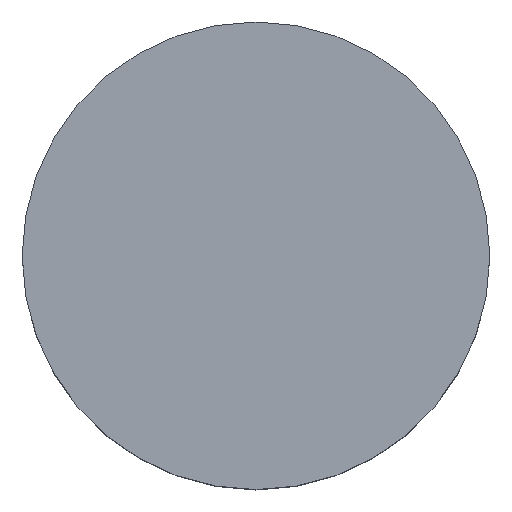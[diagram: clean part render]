
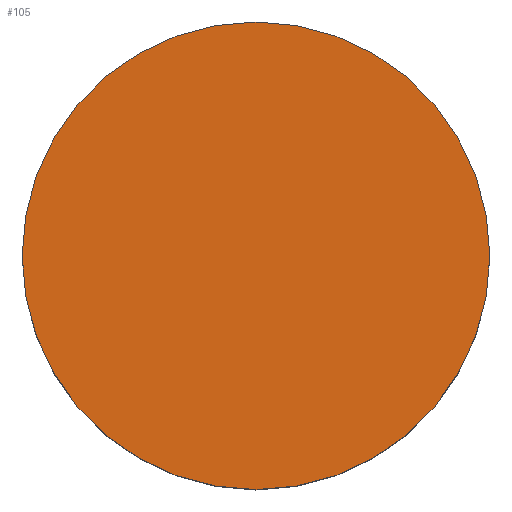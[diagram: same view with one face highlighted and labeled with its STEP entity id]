
A CAD part, top view. The second image highlights one B-rep face of the part: STEP entity #105.
In plain terms, the highlighted planar face has unit normal (0, 0, 1).
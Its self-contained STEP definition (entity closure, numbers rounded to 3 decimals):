
#21 = EDGE_CURVE('',#22,#22,#24,.T.);
#22 = VERTEX_POINT('',#23);
#23 = CARTESIAN_POINT('',(96.35,65.,155.));
#24 = SURFACE_CURVE('',#25,(#30,#42),.PCURVE_S1.);
#25 = CIRCLE('',#26,6.35);
#26 = AXIS2_PLACEMENT_3D('',#27,#28,#29);
#27 = CARTESIAN_POINT('',(90.,65.,155.));
#28 = DIRECTION('',(0.,0.,1.));
#29 = DIRECTION('',(1.,0.,-0.));
#30 = PCURVE('',#31,#36);
#31 = CYLINDRICAL_SURFACE('',#32,6.35);
#32 = AXIS2_PLACEMENT_3D('',#33,#34,#35);
#33 = CARTESIAN_POINT('',(90.,65.,149.));
#34 = DIRECTION('',(0.,0.,1.));
#35 = DIRECTION('',(1.,0.,-0.));
#36 = DEFINITIONAL_REPRESENTATION('',(#37),#41);
#37 = LINE('',#38,#39);
#38 = CARTESIAN_POINT('',(0.,6.));
#39 = VECTOR('',#40,1.);
#40 = DIRECTION('',(1.,0.));
#41 = ( GEOMETRIC_REPRESENTATION_CONTEXT(2) 
PARAMETRIC_REPRESENTATION_CONTEXT() REPRESENTATION_CONTEXT('2D SPACE',''
  ) );
#42 = PCURVE('',#43,#48);
#43 = PLANE('',#44);
#44 = AXIS2_PLACEMENT_3D('',#45,#46,#47);
#45 = CARTESIAN_POINT('',(90.,65.,155.));
#46 = DIRECTION('',(0.,0.,1.));
#47 = DIRECTION('',(1.,0.,-0.));
#48 = DEFINITIONAL_REPRESENTATION('',(#49),#53);
#49 = CIRCLE('',#50,6.35);
#50 = AXIS2_PLACEMENT_2D('',#51,#52);
#51 = CARTESIAN_POINT('',(0.,0.));
#52 = DIRECTION('',(1.,0.));
#53 = ( GEOMETRIC_REPRESENTATION_CONTEXT(2) 
PARAMETRIC_REPRESENTATION_CONTEXT() REPRESENTATION_CONTEXT('2D SPACE',''
  ) );
#105 = ADVANCED_FACE('',(#106),#43,.T.);
#106 = FACE_BOUND('',#107,.T.);
#107 = EDGE_LOOP('',(#108));
#108 = ORIENTED_EDGE('',*,*,#21,.T.);
